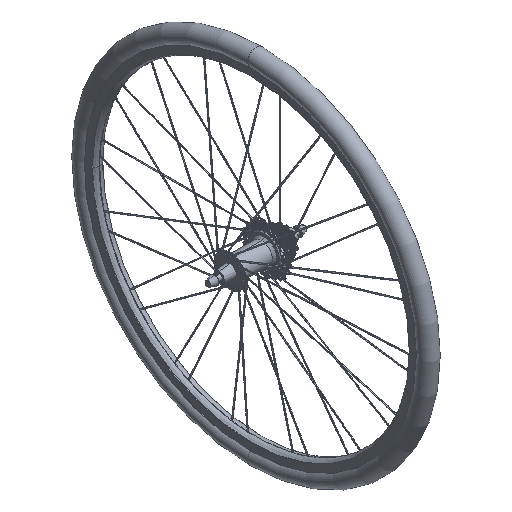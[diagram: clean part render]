
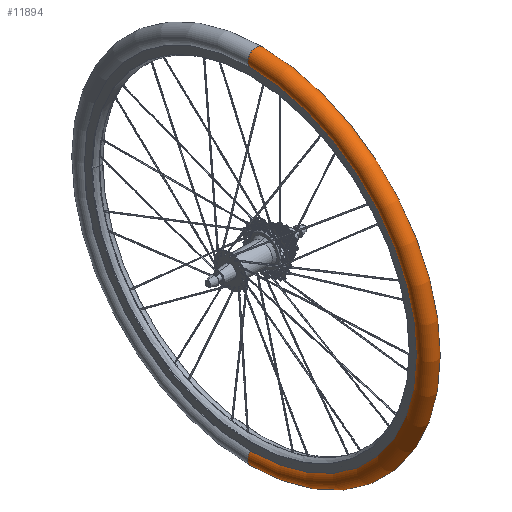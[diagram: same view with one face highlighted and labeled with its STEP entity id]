
A CAD part, isometric view. The second image highlights one B-rep face of the part: STEP entity #11894.
In plain terms, the highlighted toroidal (fillet/blend) face has major radius 330.787 mm and minor radius 16 mm.
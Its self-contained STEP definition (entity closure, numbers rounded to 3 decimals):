
#146 = AXIS2_PLACEMENT_3D ( 'NONE', #41392, #69403, #49660 ) ;
#4910 = DIRECTION ( 'NONE',  ( 0., -1., 0. ) ) ;
#8174 = DIRECTION ( 'NONE',  ( 0., 0., 1. ) ) ;
#11314 = AXIS2_PLACEMENT_3D ( 'NONE', #34726, #4910, #60362 ) ;
#11894 = ADVANCED_FACE ( 'NONE', ( #123197 ), #41232, .T. ) ;
#14494 = CARTESIAN_POINT ( 'NONE',  ( 10.5, 0., -318.714 ) ) ;
#16227 = EDGE_CURVE ( 'NONE', #73407, #77013, #118579, .T. ) ;
#24864 = ORIENTED_EDGE ( 'NONE', *, *, #16227, .F. ) ;
#25215 = EDGE_CURVE ( 'NONE', #63334, #80732, #120966, .T. ) ;
#30616 = CIRCLE ( 'NONE', #89556, 318.714 ) ;
#34707 = CIRCLE ( 'NONE', #146, 318.714 ) ;
#34726 = CARTESIAN_POINT ( 'NONE',  ( 0., 0., 330.787 ) ) ;
#41232 = TOROIDAL_SURFACE ( 'NONE', #94105, 330.787, 16. ) ;
#41392 = CARTESIAN_POINT ( 'NONE',  ( -10.5, 0., 0. ) ) ;
#45422 = ORIENTED_EDGE ( 'NONE', *, *, #60510, .T. ) ;
#46814 = CARTESIAN_POINT ( 'NONE',  ( 0., 0., 0. ) ) ;
#49660 = DIRECTION ( 'NONE',  ( 0., 0., 1. ) ) ;
#60345 = DIRECTION ( 'NONE',  ( 0., 0., -1. ) ) ;
#60362 = DIRECTION ( 'NONE',  ( 0., 0., -1. ) ) ;
#60510 = EDGE_CURVE ( 'NONE', #80732, #77013, #34707, .T. ) ;
#63334 = VERTEX_POINT ( 'NONE', #96705 ) ;
#66016 = DIRECTION ( 'NONE',  ( 0., 1., 0. ) ) ;
#69403 = DIRECTION ( 'NONE',  ( 1., 0., 0. ) ) ;
#69925 = EDGE_CURVE ( 'NONE', #73407, #63334, #30616, .T. ) ;
#73407 = VERTEX_POINT ( 'NONE', #14494 ) ;
#74834 = DIRECTION ( 'NONE',  ( -1., 0., 0. ) ) ;
#76526 = ORIENTED_EDGE ( 'NONE', *, *, #69925, .T. ) ;
#77013 = VERTEX_POINT ( 'NONE', #103533 ) ;
#80732 = VERTEX_POINT ( 'NONE', #96587 ) ;
#84080 = AXIS2_PLACEMENT_3D ( 'NONE', #106054, #66016, #8174 ) ;
#89556 = AXIS2_PLACEMENT_3D ( 'NONE', #100394, #101033, #60345 ) ;
#94105 = AXIS2_PLACEMENT_3D ( 'NONE', #46814, #74834, #95803 ) ;
#95803 = DIRECTION ( 'NONE',  ( 0., 0., 1. ) ) ;
#96587 = CARTESIAN_POINT ( 'NONE',  ( -10.5, 0., 318.714 ) ) ;
#96705 = CARTESIAN_POINT ( 'NONE',  ( 10.5, 0., 318.714 ) ) ;
#100394 = CARTESIAN_POINT ( 'NONE',  ( 10.5, 0., 0. ) ) ;
#101033 = DIRECTION ( 'NONE',  ( -1., 0., 0. ) ) ;
#103533 = CARTESIAN_POINT ( 'NONE',  ( -10.5, 0., -318.714 ) ) ;
#106054 = CARTESIAN_POINT ( 'NONE',  ( 0., 0., -330.787 ) ) ;
#111646 = EDGE_LOOP ( 'NONE', ( #24864, #76526, #115854, #45422 ) ) ;
#115854 = ORIENTED_EDGE ( 'NONE', *, *, #25215, .T. ) ;
#118579 = CIRCLE ( 'NONE', #84080, 16. ) ;
#120966 = CIRCLE ( 'NONE', #11314, 16. ) ;
#123197 = FACE_OUTER_BOUND ( 'NONE', #111646, .T. ) ;
